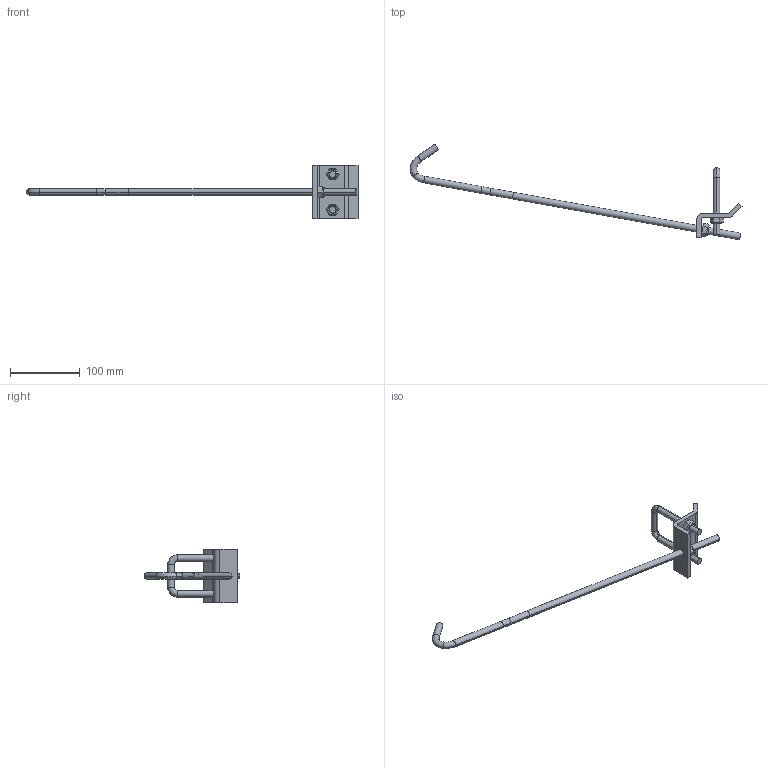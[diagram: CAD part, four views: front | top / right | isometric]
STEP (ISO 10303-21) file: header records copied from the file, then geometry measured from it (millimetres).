
FILE_DESCRIPTION(('TurboCAD Mac Pro'),'Build 980');
FILE_NAME('P2867-18.stp',' ',(''),(''),'ACIS Interop','IMSI','TurboCAD Mac Pro BY IMSI, INCORPORATED');
FILE_SCHEMA(('automotive_design'));
Length unit declared in the file: inch
Products named in the file (6): 1; 2; 3; 4; 5; 6
Bounding box: 474.58 x 136.6 x 76.2 mm (x, y, z)
Volume: 102313.6 mm3; surface area: 42289.4 mm2
Topology: 6 solids, 6 shells, 100 faces, 226 edges, 138 vertices
Faces by surface type: plane 56, bspline 24, cylinder 20
Entity records: 5660 total; most frequent: CARTESIAN_POINT 1602, ORIENTED_EDGE 452, DIRECTION 382, STYLED_ITEM 308, PRESENTATION_STYLE_ASSIGNMENT 308, COLOUR_RGB 308, EDGE_CURVE 226, CURVE_STYLE 202
